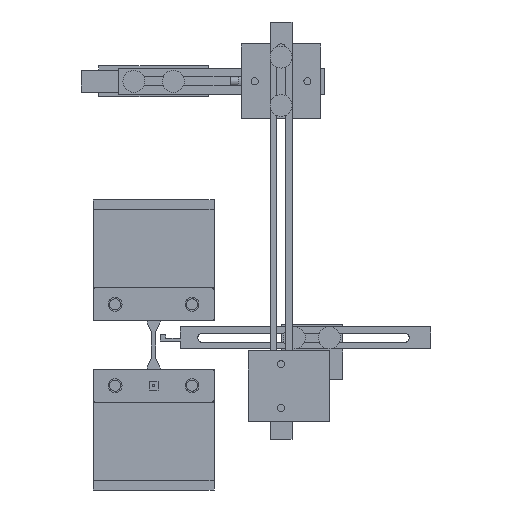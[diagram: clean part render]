
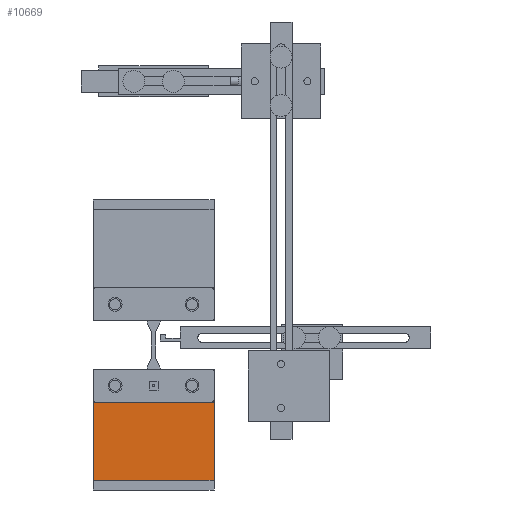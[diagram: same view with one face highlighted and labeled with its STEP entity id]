
A CAD part, front view. The second image highlights one B-rep face of the part: STEP entity #10669.
In plain terms, the highlighted planar face has unit normal (0, -1, 0).
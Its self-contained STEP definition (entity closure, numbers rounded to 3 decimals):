
#10604 = PLANE('',#10605);
#10605 = AXIS2_PLACEMENT_3D('',#10606,#10607,#10608);
#10606 = CARTESIAN_POINT('',(-27.5,12.5,-66.));
#10607 = DIRECTION('',(-1.,0.,0.));
#10608 = DIRECTION('',(0.,-1.,0.));
#10632 = PLANE('',#10633);
#10633 = AXIS2_PLACEMENT_3D('',#10634,#10635,#10636);
#10634 = CARTESIAN_POINT('',(0.,20.,-26.));
#10635 = DIRECTION('',(0.,0.,1.));
#10636 = DIRECTION('',(1.,0.,-0.));
#10658 = PLANE('',#10659);
#10659 = AXIS2_PLACEMENT_3D('',#10660,#10661,#10662);
#10660 = CARTESIAN_POINT('',(27.5,-12.5,-66.));
#10661 = DIRECTION('',(1.,0.,0.));
#10662 = DIRECTION('',(-0.,1.,0.));
#10669 = ADVANCED_FACE('',(#10670),#10684,.T.);
#10670 = FACE_BOUND('',#10671,.T.);
#10671 = EDGE_LOOP('',(#10672,#10707,#10730,#10753));
#10672 = ORIENTED_EDGE('',*,*,#10673,.F.);
#10673 = EDGE_CURVE('',#10674,#10676,#10678,.T.);
#10674 = VERTEX_POINT('',#10675);
#10675 = CARTESIAN_POINT('',(27.5,12.5,-61.5));
#10676 = VERTEX_POINT('',#10677);
#10677 = CARTESIAN_POINT('',(-27.5,12.5,-61.5));
#10678 = SURFACE_CURVE('',#10679,(#10683,#10695),.PCURVE_S1.);
#10679 = LINE('',#10680,#10681);
#10680 = CARTESIAN_POINT('',(27.5,12.5,-61.5));
#10681 = VECTOR('',#10682,1.);
#10682 = DIRECTION('',(-1.,0.,0.));
#10683 = PCURVE('',#10684,#10689);
#10684 = PLANE('',#10685);
#10685 = AXIS2_PLACEMENT_3D('',#10686,#10687,#10688);
#10686 = CARTESIAN_POINT('',(-27.5,12.5,-66.));
#10687 = DIRECTION('',(0.,-1.,0.));
#10688 = DIRECTION('',(1.,0.,0.));
#10689 = DEFINITIONAL_REPRESENTATION('',(#10690),#10694);
#10690 = LINE('',#10691,#10692);
#10691 = CARTESIAN_POINT('',(55.,4.5));
#10692 = VECTOR('',#10693,1.);
#10693 = DIRECTION('',(-1.,0.));
#10694 = ( GEOMETRIC_REPRESENTATION_CONTEXT(2)
PARAMETRIC_REPRESENTATION_CONTEXT() REPRESENTATION_CONTEXT('2D SPACE',''
  ) );
#10695 = PCURVE('',#10696,#10701);
#10696 = PLANE('',#10697);
#10697 = AXIS2_PLACEMENT_3D('',#10698,#10699,#10700);
#10698 = CARTESIAN_POINT('',(0.,0.,-61.5));
#10699 = DIRECTION('',(0.,0.,1.));
#10700 = DIRECTION('',(1.,0.,-0.));
#10701 = DEFINITIONAL_REPRESENTATION('',(#10702),#10706);
#10702 = LINE('',#10703,#10704);
#10703 = CARTESIAN_POINT('',(27.5,12.5));
#10704 = VECTOR('',#10705,1.);
#10705 = DIRECTION('',(-1.,0.));
#10706 = ( GEOMETRIC_REPRESENTATION_CONTEXT(2)
PARAMETRIC_REPRESENTATION_CONTEXT() REPRESENTATION_CONTEXT('2D SPACE',''
  ) );
#10707 = ORIENTED_EDGE('',*,*,#10708,.T.);
#10708 = EDGE_CURVE('',#10674,#10709,#10711,.T.);
#10709 = VERTEX_POINT('',#10710);
#10710 = CARTESIAN_POINT('',(27.5,12.5,-26.));
#10711 = SURFACE_CURVE('',#10712,(#10716,#10723),.PCURVE_S1.);
#10712 = LINE('',#10713,#10714);
#10713 = CARTESIAN_POINT('',(27.5,12.5,-66.));
#10714 = VECTOR('',#10715,1.);
#10715 = DIRECTION('',(0.,0.,1.));
#10716 = PCURVE('',#10684,#10717);
#10717 = DEFINITIONAL_REPRESENTATION('',(#10718),#10722);
#10718 = LINE('',#10719,#10720);
#10719 = CARTESIAN_POINT('',(55.,0.));
#10720 = VECTOR('',#10721,1.);
#10721 = DIRECTION('',(0.,1.));
#10722 = ( GEOMETRIC_REPRESENTATION_CONTEXT(2)
PARAMETRIC_REPRESENTATION_CONTEXT() REPRESENTATION_CONTEXT('2D SPACE',''
  ) );
#10723 = PCURVE('',#10658,#10724);
#10724 = DEFINITIONAL_REPRESENTATION('',(#10725),#10729);
#10725 = LINE('',#10726,#10727);
#10726 = CARTESIAN_POINT('',(25.,0.));
#10727 = VECTOR('',#10728,1.);
#10728 = DIRECTION('',(0.,1.));
#10729 = ( GEOMETRIC_REPRESENTATION_CONTEXT(2)
PARAMETRIC_REPRESENTATION_CONTEXT() REPRESENTATION_CONTEXT('2D SPACE',''
  ) );
#10730 = ORIENTED_EDGE('',*,*,#10731,.F.);
#10731 = EDGE_CURVE('',#10732,#10709,#10734,.T.);
#10732 = VERTEX_POINT('',#10733);
#10733 = CARTESIAN_POINT('',(-27.5,12.5,-26.));
#10734 = SURFACE_CURVE('',#10735,(#10739,#10746),.PCURVE_S1.);
#10735 = LINE('',#10736,#10737);
#10736 = CARTESIAN_POINT('',(-27.5,12.5,-26.));
#10737 = VECTOR('',#10738,1.);
#10738 = DIRECTION('',(1.,0.,0.));
#10739 = PCURVE('',#10684,#10740);
#10740 = DEFINITIONAL_REPRESENTATION('',(#10741),#10745);
#10741 = LINE('',#10742,#10743);
#10742 = CARTESIAN_POINT('',(0.,40.));
#10743 = VECTOR('',#10744,1.);
#10744 = DIRECTION('',(1.,0.));
#10745 = ( GEOMETRIC_REPRESENTATION_CONTEXT(2)
PARAMETRIC_REPRESENTATION_CONTEXT() REPRESENTATION_CONTEXT('2D SPACE',''
  ) );
#10746 = PCURVE('',#10632,#10747);
#10747 = DEFINITIONAL_REPRESENTATION('',(#10748),#10752);
#10748 = LINE('',#10749,#10750);
#10749 = CARTESIAN_POINT('',(-27.5,-7.5));
#10750 = VECTOR('',#10751,1.);
#10751 = DIRECTION('',(1.,0.));
#10752 = ( GEOMETRIC_REPRESENTATION_CONTEXT(2)
PARAMETRIC_REPRESENTATION_CONTEXT() REPRESENTATION_CONTEXT('2D SPACE',''
  ) );
#10753 = ORIENTED_EDGE('',*,*,#10754,.F.);
#10754 = EDGE_CURVE('',#10676,#10732,#10755,.T.);
#10755 = SURFACE_CURVE('',#10756,(#10760,#10767),.PCURVE_S1.);
#10756 = LINE('',#10757,#10758);
#10757 = CARTESIAN_POINT('',(-27.5,12.5,-66.));
#10758 = VECTOR('',#10759,1.);
#10759 = DIRECTION('',(0.,0.,1.));
#10760 = PCURVE('',#10684,#10761);
#10761 = DEFINITIONAL_REPRESENTATION('',(#10762),#10766);
#10762 = LINE('',#10763,#10764);
#10763 = CARTESIAN_POINT('',(0.,0.));
#10764 = VECTOR('',#10765,1.);
#10765 = DIRECTION('',(0.,1.));
#10766 = ( GEOMETRIC_REPRESENTATION_CONTEXT(2)
PARAMETRIC_REPRESENTATION_CONTEXT() REPRESENTATION_CONTEXT('2D SPACE',''
  ) );
#10767 = PCURVE('',#10604,#10768);
#10768 = DEFINITIONAL_REPRESENTATION('',(#10769),#10773);
#10769 = LINE('',#10770,#10771);
#10770 = CARTESIAN_POINT('',(0.,0.));
#10771 = VECTOR('',#10772,1.);
#10772 = DIRECTION('',(0.,1.));
#10773 = ( GEOMETRIC_REPRESENTATION_CONTEXT(2)
PARAMETRIC_REPRESENTATION_CONTEXT() REPRESENTATION_CONTEXT('2D SPACE',''
  ) );
